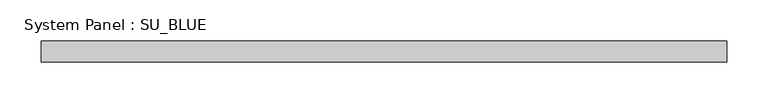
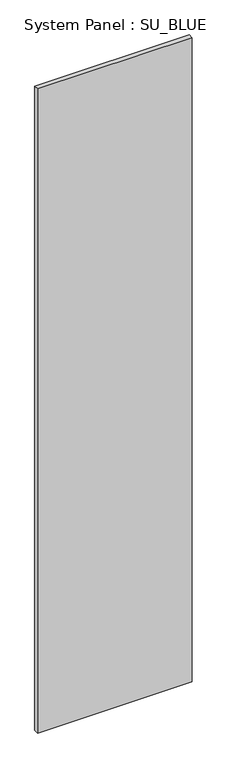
"""IFC4 building model written with IfcOpenShell, lengths in millimetres: plate geometry, System Panel : SU_BLUE."""

from ifc_helpers import new_model, si_unit, origin, origin_with_axes, place, context, project, spatial, polyline, outline, extrude, source, transform, mapped, element, save


def system_panel_su_blue_654c3fe2(model_context):
    return source(origin(), model_context, "Body", "SweptSolid", [
        extrude(outline(polyline([(415.3596078, 19.05), (-415.3596078, 19.05), (-415.3596078, 44.45), (415.3596078, 44.45), (415.3596078, 19.05)])), origin_with_axes(), (0.0, 0.0, 1.0), 3657.6),
    ])


if __name__ == "__main__":
    model = new_model("IFC4")
    model_context = context("Model", 3, world=origin())
    ifc_project = project(units=[si_unit("LENGTHUNIT", "METRE", prefix="MILLI")], contexts=[model_context])
    site = spatial("IfcSite", under=ifc_project)
    building = spatial("IfcBuilding", under=site)
    placement = place(None, origin())
    system_panel_su_blue_shape = system_panel_su_blue_654c3fe2(model_context)
    element("IfcPlate", 1, ObjectType="System Panel : SU_BLUE", at=placement, inside=building, context=model_context, shape_type="MappedRepresentation", body=[
        mapped(system_panel_su_blue_shape, transform((0.0, 0.0, 0.0), x_axis=(1.0, 0.0, 0.0), y_axis=(0.0, 1.0, 0.0), z_axis=(0.0, 0.0, 1.0))),
    ])
    save(model, "model.ifc")
